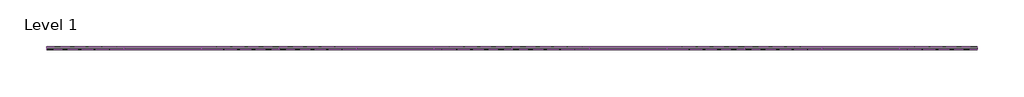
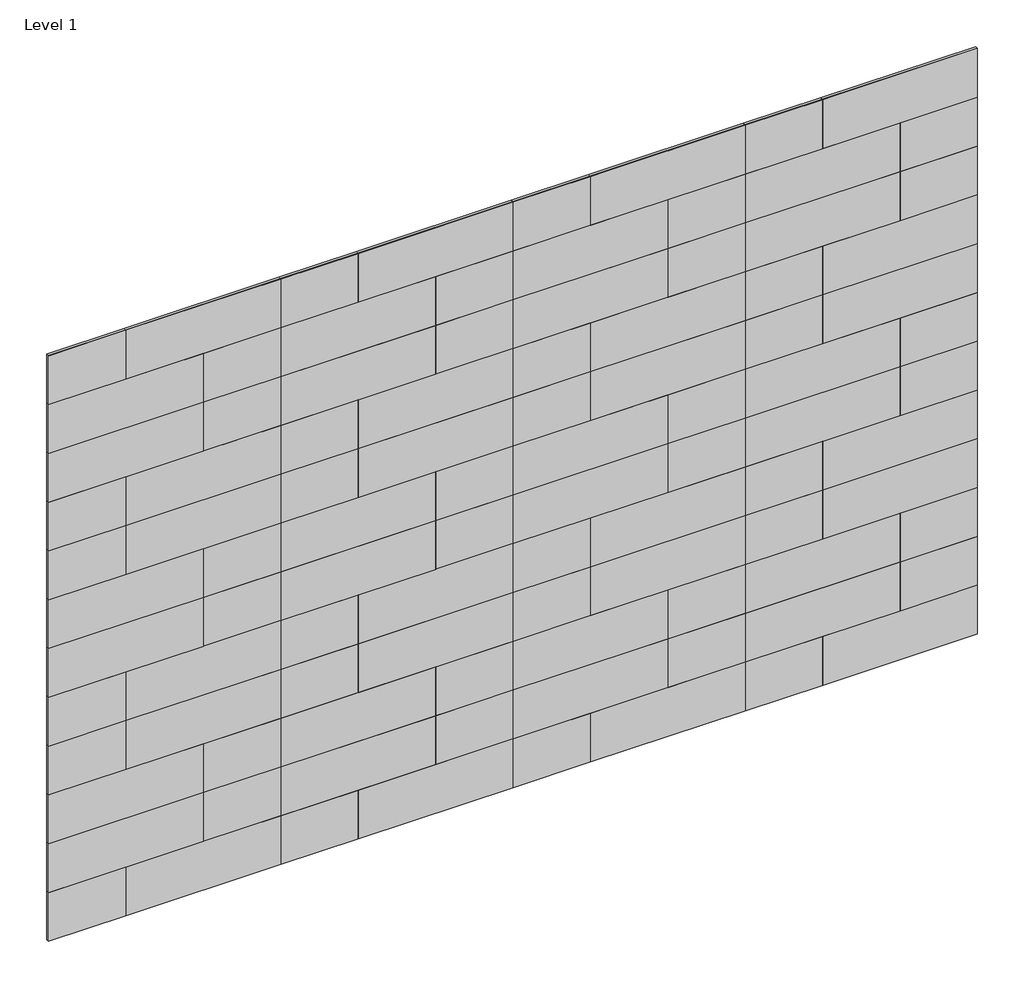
# One storey: 96 proxies.
"""IFC4 building model written with IfcOpenShell, lengths in millimetres."""

from ifc_helpers import new_model, si_unit, origin, place, context, project, spatial, transform, mapped, element, save
from components import specialty_equipment_1684c698, specialty_equipment_d1af641a

model = new_model("IFC4")

# Units and contexts
model_context = context("Model", 3, world=origin())
ifc_project = project(units=[si_unit("LENGTHUNIT", "METRE", prefix="MILLI")], contexts=[model_context])

# Site, building, storey
site = spatial("IfcSite", under=ifc_project)
building = spatial("IfcBuilding", under=site)
storey = spatial("IfcBuildingStorey", under=building, Name="Level 1", Elevation=0.0)

# Proxies
placement = place(None, origin())
specialty_equipment_shape = specialty_equipment_1684c698(model_context)
element("IfcBuildingElementProxy", 1, Name="FilzFelt_Rectangle B_Block : Rectangle B = 1’-0” x 8” (30.5 x 20.3 cm)", ObjectType="FilzFelt_Rectangle B_Block : Rectangle B = 1’-0” x 8” (30.5 x 20.3 cm)", at=placement, inside=storey, context=model_context, shape_type="MappedRepresentation", body=[
    mapped(specialty_equipment_shape, transform((37520.1097905, 3946.8352795, 2540.0), x_axis=(1.0, 0.0, 0.0), y_axis=(0.0, 0.0, 1.0), z_axis=(0.0, -1.0, 0.0))),
])
element("IfcBuildingElementProxy", 2, Name="FilzFelt_Rectangle B_Block : Rectangle B = 1’-0” x 8” (30.5 x 20.3 cm)", ObjectType="FilzFelt_Rectangle B_Block : Rectangle B = 1’-0” x 8” (30.5 x 20.3 cm)", at=placement, inside=storey, context=model_context, shape_type="MappedRepresentation", body=[
    mapped(specialty_equipment_shape, transform((38434.5097905, 3946.8352795, 2540.0), x_axis=(1.0, 0.0, 0.0), y_axis=(0.0, 0.0, 1.0), z_axis=(0.0, -1.0, 0.0))),
])
element("IfcBuildingElementProxy", 3, Name="FilzFelt_Rectangle B_Block : Rectangle B = 1’-0” x 8” (30.5 x 20.3 cm)", ObjectType="FilzFelt_Rectangle B_Block : Rectangle B = 1’-0” x 8” (30.5 x 20.3 cm)", at=placement, inside=storey, context=model_context, shape_type="MappedRepresentation", body=[
    mapped(specialty_equipment_shape, transform((39348.9097905, 3946.8352795, 2540.0), x_axis=(1.0, 0.0, 0.0), y_axis=(0.0, 0.0, 1.0), z_axis=(0.0, -1.0, 0.0))),
])
element("IfcBuildingElementProxy", 4, Name="FilzFelt_Rectangle B_Block : Rectangle B = 1’-0” x 8” (30.5 x 20.3 cm)", ObjectType="FilzFelt_Rectangle B_Block : Rectangle B = 1’-0” x 8” (30.5 x 20.3 cm)", at=placement, inside=storey, context=model_context, shape_type="MappedRepresentation", body=[
    mapped(specialty_equipment_shape, transform((40263.3097905, 3946.8352795, 2540.0), x_axis=(1.0, 0.0, 0.0), y_axis=(0.0, 0.0, 1.0), z_axis=(0.0, -1.0, 0.0))),
])
element("IfcBuildingElementProxy", 5, Name="FilzFelt_Rectangle B_Block : Rectangle B = 1’-0” x 8” (30.5 x 20.3 cm)", ObjectType="FilzFelt_Rectangle B_Block : Rectangle B = 1’-0” x 8” (30.5 x 20.3 cm)", at=placement, inside=storey, context=model_context, shape_type="MappedRepresentation", body=[
    mapped(specialty_equipment_shape, transform((38129.7097905, 3946.8352795, 2133.6), x_axis=(1.0, 0.0, 0.0), y_axis=(0.0, 0.0, 1.0), z_axis=(0.0, -1.0, 0.0))),
])
element("IfcBuildingElementProxy", 6, Name="FilzFelt_Rectangle B_Block : Rectangle B = 1’-0” x 8” (30.5 x 20.3 cm)", ObjectType="FilzFelt_Rectangle B_Block : Rectangle B = 1’-0” x 8” (30.5 x 20.3 cm)", at=placement, inside=storey, context=model_context, shape_type="MappedRepresentation", body=[
    mapped(specialty_equipment_shape, transform((39044.1097905, 3946.8352795, 2133.6), x_axis=(1.0, 0.0, 0.0), y_axis=(0.0, 0.0, 1.0), z_axis=(0.0, -1.0, 0.0))),
])
element("IfcBuildingElementProxy", 7, Name="FilzFelt_Rectangle B_Block : Rectangle B = 1’-0” x 8” (30.5 x 20.3 cm)", ObjectType="FilzFelt_Rectangle B_Block : Rectangle B = 1’-0” x 8” (30.5 x 20.3 cm)", at=placement, inside=storey, context=model_context, shape_type="MappedRepresentation", body=[
    mapped(specialty_equipment_shape, transform((39958.5097905, 3946.8352795, 2133.6), x_axis=(1.0, 0.0, 0.0), y_axis=(0.0, 0.0, 1.0), z_axis=(0.0, -1.0, 0.0))),
])
element("IfcBuildingElementProxy", 8, Name="FilzFelt_Rectangle B_Block : Rectangle B = 1’-0” x 8” (30.5 x 20.3 cm)", ObjectType="FilzFelt_Rectangle B_Block : Rectangle B = 1’-0” x 8” (30.5 x 20.3 cm)", at=placement, inside=storey, context=model_context, shape_type="MappedRepresentation", body=[
    mapped(specialty_equipment_shape, transform((40872.9097905, 3946.8352795, 2133.6), x_axis=(1.0, 0.0, 0.0), y_axis=(0.0, 0.0, 1.0), z_axis=(0.0, -1.0, 0.0))),
])
element("IfcBuildingElementProxy", 9, Name="FilzFelt_Rectangle B_Block : Rectangle B = 1’-0” x 8” (30.5 x 20.3 cm)", ObjectType="FilzFelt_Rectangle B_Block : Rectangle B = 1’-0” x 8” (30.5 x 20.3 cm)", at=placement, inside=storey, context=model_context, shape_type="MappedRepresentation", body=[
    mapped(specialty_equipment_shape, transform((37520.1097905, 3946.8352795, 1727.2), x_axis=(1.0, 0.0, 0.0), y_axis=(0.0, 0.0, 1.0), z_axis=(0.0, -1.0, 0.0))),
])
element("IfcBuildingElementProxy", 10, Name="FilzFelt_Rectangle B_Block : Rectangle B = 1’-0” x 8” (30.5 x 20.3 cm)", ObjectType="FilzFelt_Rectangle B_Block : Rectangle B = 1’-0” x 8” (30.5 x 20.3 cm)", at=placement, inside=storey, context=model_context, shape_type="MappedRepresentation", body=[
    mapped(specialty_equipment_shape, transform((38434.5097905, 3946.8352795, 1727.2), x_axis=(1.0, 0.0, 0.0), y_axis=(0.0, 0.0, 1.0), z_axis=(0.0, -1.0, 0.0))),
])
element("IfcBuildingElementProxy", 11, Name="FilzFelt_Rectangle B_Block : Rectangle B = 1’-0” x 8” (30.5 x 20.3 cm)", ObjectType="FilzFelt_Rectangle B_Block : Rectangle B = 1’-0” x 8” (30.5 x 20.3 cm)", at=placement, inside=storey, context=model_context, shape_type="MappedRepresentation", body=[
    mapped(specialty_equipment_shape, transform((39348.9097905, 3946.8352795, 1727.2), x_axis=(1.0, 0.0, 0.0), y_axis=(0.0, 0.0, 1.0), z_axis=(0.0, -1.0, 0.0))),
])
element("IfcBuildingElementProxy", 12, Name="FilzFelt_Rectangle B_Block : Rectangle B = 1’-0” x 8” (30.5 x 20.3 cm)", ObjectType="FilzFelt_Rectangle B_Block : Rectangle B = 1’-0” x 8” (30.5 x 20.3 cm)", at=placement, inside=storey, context=model_context, shape_type="MappedRepresentation", body=[
    mapped(specialty_equipment_shape, transform((40263.3097905, 3946.8352795, 1727.2), x_axis=(1.0, 0.0, 0.0), y_axis=(0.0, 0.0, 1.0), z_axis=(0.0, -1.0, 0.0))),
])
element("IfcBuildingElementProxy", 13, Name="FilzFelt_Rectangle B_Block : Rectangle B = 1’-0” x 8” (30.5 x 20.3 cm)", ObjectType="FilzFelt_Rectangle B_Block : Rectangle B = 1’-0” x 8” (30.5 x 20.3 cm)", at=placement, inside=storey, context=model_context, shape_type="MappedRepresentation", body=[
    mapped(specialty_equipment_shape, transform((38129.7097905, 3946.8352795, 1320.8), x_axis=(1.0, 0.0, 0.0), y_axis=(0.0, 0.0, 1.0), z_axis=(0.0, -1.0, 0.0))),
])
element("IfcBuildingElementProxy", 14, Name="FilzFelt_Rectangle B_Block : Rectangle B = 1’-0” x 8” (30.5 x 20.3 cm)", ObjectType="FilzFelt_Rectangle B_Block : Rectangle B = 1’-0” x 8” (30.5 x 20.3 cm)", at=placement, inside=storey, context=model_context, shape_type="MappedRepresentation", body=[
    mapped(specialty_equipment_shape, transform((39044.1097905, 3946.8352795, 1320.8), x_axis=(1.0, 0.0, 0.0), y_axis=(0.0, 0.0, 1.0), z_axis=(0.0, -1.0, 0.0))),
])
element("IfcBuildingElementProxy", 15, Name="FilzFelt_Rectangle B_Block : Rectangle B = 1’-0” x 8” (30.5 x 20.3 cm)", ObjectType="FilzFelt_Rectangle B_Block : Rectangle B = 1’-0” x 8” (30.5 x 20.3 cm)", at=placement, inside=storey, context=model_context, shape_type="MappedRepresentation", body=[
    mapped(specialty_equipment_shape, transform((39958.5097905, 3946.8352795, 1320.8), x_axis=(1.0, 0.0, 0.0), y_axis=(0.0, 0.0, 1.0), z_axis=(0.0, -1.0, 0.0))),
])
element("IfcBuildingElementProxy", 16, Name="FilzFelt_Rectangle B_Block : Rectangle B = 1’-0” x 8” (30.5 x 20.3 cm)", ObjectType="FilzFelt_Rectangle B_Block : Rectangle B = 1’-0” x 8” (30.5 x 20.3 cm)", at=placement, inside=storey, context=model_context, shape_type="MappedRepresentation", body=[
    mapped(specialty_equipment_shape, transform((40872.9097905, 3946.8352795, 1320.8), x_axis=(1.0, 0.0, 0.0), y_axis=(0.0, 0.0, 1.0), z_axis=(0.0, -1.0, 0.0))),
])
element("IfcBuildingElementProxy", 17, Name="FilzFelt_Rectangle B_Block : Rectangle B = 1’-0” x 8” (30.5 x 20.3 cm)", ObjectType="FilzFelt_Rectangle B_Block : Rectangle B = 1’-0” x 8” (30.5 x 20.3 cm)", at=placement, inside=storey, context=model_context, shape_type="MappedRepresentation", body=[
    mapped(specialty_equipment_shape, transform((37520.1097905, 3946.8352795, 914.4), x_axis=(1.0, 0.0, 0.0), y_axis=(0.0, 0.0, 1.0), z_axis=(0.0, -1.0, 0.0))),
])
element("IfcBuildingElementProxy", 18, Name="FilzFelt_Rectangle B_Block : Rectangle B = 1’-0” x 8” (30.5 x 20.3 cm)", ObjectType="FilzFelt_Rectangle B_Block : Rectangle B = 1’-0” x 8” (30.5 x 20.3 cm)", at=placement, inside=storey, context=model_context, shape_type="MappedRepresentation", body=[
    mapped(specialty_equipment_shape, transform((38434.5097905, 3946.8352795, 914.4), x_axis=(1.0, 0.0, 0.0), y_axis=(0.0, 0.0, 1.0), z_axis=(0.0, -1.0, 0.0))),
])
element("IfcBuildingElementProxy", 19, Name="FilzFelt_Rectangle B_Block : Rectangle B = 1’-0” x 8” (30.5 x 20.3 cm)", ObjectType="FilzFelt_Rectangle B_Block : Rectangle B = 1’-0” x 8” (30.5 x 20.3 cm)", at=placement, inside=storey, context=model_context, shape_type="MappedRepresentation", body=[
    mapped(specialty_equipment_shape, transform((39348.9097905, 3946.8352795, 914.4), x_axis=(1.0, 0.0, 0.0), y_axis=(0.0, 0.0, 1.0), z_axis=(0.0, -1.0, 0.0))),
])
element("IfcBuildingElementProxy", 20, Name="FilzFelt_Rectangle B_Block : Rectangle B = 1’-0” x 8” (30.5 x 20.3 cm)", ObjectType="FilzFelt_Rectangle B_Block : Rectangle B = 1’-0” x 8” (30.5 x 20.3 cm)", at=placement, inside=storey, context=model_context, shape_type="MappedRepresentation", body=[
    mapped(specialty_equipment_shape, transform((40263.3097905, 3946.8352795, 914.4), x_axis=(1.0, 0.0, 0.0), y_axis=(0.0, 0.0, 1.0), z_axis=(0.0, -1.0, 0.0))),
])
element("IfcBuildingElementProxy", 21, Name="FilzFelt_Rectangle B_Block : Rectangle B = 1’-0” x 8” (30.5 x 20.3 cm)", ObjectType="FilzFelt_Rectangle B_Block : Rectangle B = 1’-0” x 8” (30.5 x 20.3 cm)", at=placement, inside=storey, context=model_context, shape_type="MappedRepresentation", body=[
    mapped(specialty_equipment_shape, transform((38129.7097905, 3946.8352795, 508.0), x_axis=(1.0, 0.0, 0.0), y_axis=(0.0, 0.0, 1.0), z_axis=(0.0, -1.0, 0.0))),
])
element("IfcBuildingElementProxy", 22, Name="FilzFelt_Rectangle B_Block : Rectangle B = 1’-0” x 8” (30.5 x 20.3 cm)", ObjectType="FilzFelt_Rectangle B_Block : Rectangle B = 1’-0” x 8” (30.5 x 20.3 cm)", at=placement, inside=storey, context=model_context, shape_type="MappedRepresentation", body=[
    mapped(specialty_equipment_shape, transform((39044.1097905, 3946.8352795, 508.0), x_axis=(1.0, 0.0, 0.0), y_axis=(0.0, 0.0, 1.0), z_axis=(0.0, -1.0, 0.0))),
])
element("IfcBuildingElementProxy", 23, Name="FilzFelt_Rectangle B_Block : Rectangle B = 1’-0” x 8” (30.5 x 20.3 cm)", ObjectType="FilzFelt_Rectangle B_Block : Rectangle B = 1’-0” x 8” (30.5 x 20.3 cm)", at=placement, inside=storey, context=model_context, shape_type="MappedRepresentation", body=[
    mapped(specialty_equipment_shape, transform((39958.5097905, 3946.8352795, 508.0), x_axis=(1.0, 0.0, 0.0), y_axis=(0.0, 0.0, 1.0), z_axis=(0.0, -1.0, 0.0))),
])
element("IfcBuildingElementProxy", 24, Name="FilzFelt_Rectangle B_Block : Rectangle B = 1’-0” x 8” (30.5 x 20.3 cm)", ObjectType="FilzFelt_Rectangle B_Block : Rectangle B = 1’-0” x 8” (30.5 x 20.3 cm)", at=placement, inside=storey, context=model_context, shape_type="MappedRepresentation", body=[
    mapped(specialty_equipment_shape, transform((40872.9097905, 3946.8352795, 508.0), x_axis=(1.0, 0.0, 0.0), y_axis=(0.0, 0.0, 1.0), z_axis=(0.0, -1.0, 0.0))),
])
specialty_equipment_2_shape = specialty_equipment_d1af641a(model_context)
element("IfcBuildingElementProxy", 25, Name="FilzFelt_Rectangle A_Block : Rectangle A = 2’-0” x 8” (61 x 20.3 cm)", ObjectType="FilzFelt_Rectangle A_Block : Rectangle A = 2’-0” x 8” (61 x 20.3 cm)", at=placement, inside=storey, context=model_context, shape_type="MappedRepresentation", body=[
    mapped(specialty_equipment_2_shape, transform((37977.3097905, 3946.8352795, 2540.0), x_axis=(1.0, 0.0, 0.0), y_axis=(0.0, 0.0, 1.0), z_axis=(0.0, -1.0, 0.0))),
])
element("IfcBuildingElementProxy", 26, Name="FilzFelt_Rectangle A_Block : Rectangle A = 2’-0” x 8” (61 x 20.3 cm)", ObjectType="FilzFelt_Rectangle A_Block : Rectangle A = 2’-0” x 8” (61 x 20.3 cm)", at=placement, inside=storey, context=model_context, shape_type="MappedRepresentation", body=[
    mapped(specialty_equipment_2_shape, transform((38891.7097905, 3946.8352795, 2540.0), x_axis=(1.0, 0.0, 0.0), y_axis=(0.0, 0.0, 1.0), z_axis=(0.0, -1.0, 0.0))),
])
element("IfcBuildingElementProxy", 27, Name="FilzFelt_Rectangle A_Block : Rectangle A = 2’-0” x 8” (61 x 20.3 cm)", ObjectType="FilzFelt_Rectangle A_Block : Rectangle A = 2’-0” x 8” (61 x 20.3 cm)", at=placement, inside=storey, context=model_context, shape_type="MappedRepresentation", body=[
    mapped(specialty_equipment_2_shape, transform((39806.1097905, 3946.8352795, 2540.0), x_axis=(1.0, 0.0, 0.0), y_axis=(0.0, 0.0, 1.0), z_axis=(0.0, -1.0, 0.0))),
])
element("IfcBuildingElementProxy", 28, Name="FilzFelt_Rectangle A_Block : Rectangle A = 2’-0” x 8” (61 x 20.3 cm)", ObjectType="FilzFelt_Rectangle A_Block : Rectangle A = 2’-0” x 8” (61 x 20.3 cm)", at=placement, inside=storey, context=model_context, shape_type="MappedRepresentation", body=[
    mapped(specialty_equipment_2_shape, transform((40720.5097905, 3946.8352795, 2540.0), x_axis=(1.0, 0.0, 0.0), y_axis=(0.0, 0.0, 1.0), z_axis=(0.0, -1.0, 0.0))),
])
element("IfcBuildingElementProxy", 29, Name="FilzFelt_Rectangle A_Block : Rectangle A = 2’-0” x 8” (61 x 20.3 cm)", ObjectType="FilzFelt_Rectangle A_Block : Rectangle A = 2’-0” x 8” (61 x 20.3 cm)", at=placement, inside=storey, context=model_context, shape_type="MappedRepresentation", body=[
    mapped(specialty_equipment_2_shape, transform((37672.5097905, 3946.8352795, 2133.6), x_axis=(1.0, 0.0, 0.0), y_axis=(0.0, 0.0, 1.0), z_axis=(0.0, -1.0, 0.0))),
])
element("IfcBuildingElementProxy", 30, Name="FilzFelt_Rectangle A_Block : Rectangle A = 2’-0” x 8” (61 x 20.3 cm)", ObjectType="FilzFelt_Rectangle A_Block : Rectangle A = 2’-0” x 8” (61 x 20.3 cm)", at=placement, inside=storey, context=model_context, shape_type="MappedRepresentation", body=[
    mapped(specialty_equipment_2_shape, transform((38586.9097905, 3946.8352795, 2133.6), x_axis=(1.0, 0.0, 0.0), y_axis=(0.0, 0.0, 1.0), z_axis=(0.0, -1.0, 0.0))),
])
element("IfcBuildingElementProxy", 31, Name="FilzFelt_Rectangle A_Block : Rectangle A = 2’-0” x 8” (61 x 20.3 cm)", ObjectType="FilzFelt_Rectangle A_Block : Rectangle A = 2’-0” x 8” (61 x 20.3 cm)", at=placement, inside=storey, context=model_context, shape_type="MappedRepresentation", body=[
    mapped(specialty_equipment_2_shape, transform((39501.3097905, 3946.8352795, 2133.6), x_axis=(1.0, 0.0, 0.0), y_axis=(0.0, 0.0, 1.0), z_axis=(0.0, -1.0, 0.0))),
])
element("IfcBuildingElementProxy", 32, Name="FilzFelt_Rectangle A_Block : Rectangle A = 2’-0” x 8” (61 x 20.3 cm)", ObjectType="FilzFelt_Rectangle A_Block : Rectangle A = 2’-0” x 8” (61 x 20.3 cm)", at=placement, inside=storey, context=model_context, shape_type="MappedRepresentation", body=[
    mapped(specialty_equipment_2_shape, transform((40415.7097905, 3946.8352795, 2133.6), x_axis=(1.0, 0.0, 0.0), y_axis=(0.0, 0.0, 1.0), z_axis=(0.0, -1.0, 0.0))),
])
element("IfcBuildingElementProxy", 33, Name="FilzFelt_Rectangle A_Block : Rectangle A = 2’-0” x 8” (61 x 20.3 cm)", ObjectType="FilzFelt_Rectangle A_Block : Rectangle A = 2’-0” x 8” (61 x 20.3 cm)", at=placement, inside=storey, context=model_context, shape_type="MappedRepresentation", body=[
    mapped(specialty_equipment_2_shape, transform((37977.3097905, 3946.8352795, 1727.2), x_axis=(1.0, 0.0, 0.0), y_axis=(0.0, 0.0, 1.0), z_axis=(0.0, -1.0, 0.0))),
])
element("IfcBuildingElementProxy", 34, Name="FilzFelt_Rectangle A_Block : Rectangle A = 2’-0” x 8” (61 x 20.3 cm)", ObjectType="FilzFelt_Rectangle A_Block : Rectangle A = 2’-0” x 8” (61 x 20.3 cm)", at=placement, inside=storey, context=model_context, shape_type="MappedRepresentation", body=[
    mapped(specialty_equipment_2_shape, transform((38891.7097905, 3946.8352795, 1727.2), x_axis=(1.0, 0.0, 0.0), y_axis=(0.0, 0.0, 1.0), z_axis=(0.0, -1.0, 0.0))),
])
element("IfcBuildingElementProxy", 35, Name="FilzFelt_Rectangle A_Block : Rectangle A = 2’-0” x 8” (61 x 20.3 cm)", ObjectType="FilzFelt_Rectangle A_Block : Rectangle A = 2’-0” x 8” (61 x 20.3 cm)", at=placement, inside=storey, context=model_context, shape_type="MappedRepresentation", body=[
    mapped(specialty_equipment_2_shape, transform((39806.1097905, 3946.8352795, 1727.2), x_axis=(1.0, 0.0, 0.0), y_axis=(0.0, 0.0, 1.0), z_axis=(0.0, -1.0, 0.0))),
])
element("IfcBuildingElementProxy", 36, Name="FilzFelt_Rectangle A_Block : Rectangle A = 2’-0” x 8” (61 x 20.3 cm)", ObjectType="FilzFelt_Rectangle A_Block : Rectangle A = 2’-0” x 8” (61 x 20.3 cm)", at=placement, inside=storey, context=model_context, shape_type="MappedRepresentation", body=[
    mapped(specialty_equipment_2_shape, transform((40720.5097905, 3946.8352795, 1727.2), x_axis=(1.0, 0.0, 0.0), y_axis=(0.0, 0.0, 1.0), z_axis=(0.0, -1.0, 0.0))),
])
element("IfcBuildingElementProxy", 37, Name="FilzFelt_Rectangle A_Block : Rectangle A = 2’-0” x 8” (61 x 20.3 cm)", ObjectType="FilzFelt_Rectangle A_Block : Rectangle A = 2’-0” x 8” (61 x 20.3 cm)", at=placement, inside=storey, context=model_context, shape_type="MappedRepresentation", body=[
    mapped(specialty_equipment_2_shape, transform((37672.5097905, 3946.8352795, 1320.8), x_axis=(1.0, 0.0, 0.0), y_axis=(0.0, 0.0, 1.0), z_axis=(0.0, -1.0, 0.0))),
])
element("IfcBuildingElementProxy", 38, Name="FilzFelt_Rectangle A_Block : Rectangle A = 2’-0” x 8” (61 x 20.3 cm)", ObjectType="FilzFelt_Rectangle A_Block : Rectangle A = 2’-0” x 8” (61 x 20.3 cm)", at=placement, inside=storey, context=model_context, shape_type="MappedRepresentation", body=[
    mapped(specialty_equipment_2_shape, transform((38586.9097905, 3946.8352795, 1320.8), x_axis=(1.0, 0.0, 0.0), y_axis=(0.0, 0.0, 1.0), z_axis=(0.0, -1.0, 0.0))),
])
element("IfcBuildingElementProxy", 39, Name="FilzFelt_Rectangle A_Block : Rectangle A = 2’-0” x 8” (61 x 20.3 cm)", ObjectType="FilzFelt_Rectangle A_Block : Rectangle A = 2’-0” x 8” (61 x 20.3 cm)", at=placement, inside=storey, context=model_context, shape_type="MappedRepresentation", body=[
    mapped(specialty_equipment_2_shape, transform((39501.3097905, 3946.8352795, 1320.8), x_axis=(1.0, 0.0, 0.0), y_axis=(0.0, 0.0, 1.0), z_axis=(0.0, -1.0, 0.0))),
])
element("IfcBuildingElementProxy", 40, Name="FilzFelt_Rectangle A_Block : Rectangle A = 2’-0” x 8” (61 x 20.3 cm)", ObjectType="FilzFelt_Rectangle A_Block : Rectangle A = 2’-0” x 8” (61 x 20.3 cm)", at=placement, inside=storey, context=model_context, shape_type="MappedRepresentation", body=[
    mapped(specialty_equipment_2_shape, transform((40415.7097905, 3946.8352795, 1320.8), x_axis=(1.0, 0.0, 0.0), y_axis=(0.0, 0.0, 1.0), z_axis=(0.0, -1.0, 0.0))),
])
element("IfcBuildingElementProxy", 41, Name="FilzFelt_Rectangle A_Block : Rectangle A = 2’-0” x 8” (61 x 20.3 cm)", ObjectType="FilzFelt_Rectangle A_Block : Rectangle A = 2’-0” x 8” (61 x 20.3 cm)", at=placement, inside=storey, context=model_context, shape_type="MappedRepresentation", body=[
    mapped(specialty_equipment_2_shape, transform((37977.3097905, 3946.8352795, 914.4), x_axis=(1.0, 0.0, 0.0), y_axis=(0.0, 0.0, 1.0), z_axis=(0.0, -1.0, 0.0))),
])
element("IfcBuildingElementProxy", 42, Name="FilzFelt_Rectangle A_Block : Rectangle A = 2’-0” x 8” (61 x 20.3 cm)", ObjectType="FilzFelt_Rectangle A_Block : Rectangle A = 2’-0” x 8” (61 x 20.3 cm)", at=placement, inside=storey, context=model_context, shape_type="MappedRepresentation", body=[
    mapped(specialty_equipment_2_shape, transform((38891.7097905, 3946.8352795, 914.4), x_axis=(1.0, 0.0, 0.0), y_axis=(0.0, 0.0, 1.0), z_axis=(0.0, -1.0, 0.0))),
])
element("IfcBuildingElementProxy", 43, Name="FilzFelt_Rectangle A_Block : Rectangle A = 2’-0” x 8” (61 x 20.3 cm)", ObjectType="FilzFelt_Rectangle A_Block : Rectangle A = 2’-0” x 8” (61 x 20.3 cm)", at=placement, inside=storey, context=model_context, shape_type="MappedRepresentation", body=[
    mapped(specialty_equipment_2_shape, transform((39806.1097905, 3946.8352795, 914.4), x_axis=(1.0, 0.0, 0.0), y_axis=(0.0, 0.0, 1.0), z_axis=(0.0, -1.0, 0.0))),
])
element("IfcBuildingElementProxy", 44, Name="FilzFelt_Rectangle A_Block : Rectangle A = 2’-0” x 8” (61 x 20.3 cm)", ObjectType="FilzFelt_Rectangle A_Block : Rectangle A = 2’-0” x 8” (61 x 20.3 cm)", at=placement, inside=storey, context=model_context, shape_type="MappedRepresentation", body=[
    mapped(specialty_equipment_2_shape, transform((40720.5097905, 3946.8352795, 914.4), x_axis=(1.0, 0.0, 0.0), y_axis=(0.0, 0.0, 1.0), z_axis=(0.0, -1.0, 0.0))),
])
element("IfcBuildingElementProxy", 45, Name="FilzFelt_Rectangle A_Block : Rectangle A = 2’-0” x 8” (61 x 20.3 cm)", ObjectType="FilzFelt_Rectangle A_Block : Rectangle A = 2’-0” x 8” (61 x 20.3 cm)", at=placement, inside=storey, context=model_context, shape_type="MappedRepresentation", body=[
    mapped(specialty_equipment_2_shape, transform((37672.5097905, 3946.8352795, 508.0), x_axis=(1.0, 0.0, 0.0), y_axis=(0.0, 0.0, 1.0), z_axis=(0.0, -1.0, 0.0))),
])
element("IfcBuildingElementProxy", 46, Name="FilzFelt_Rectangle A_Block : Rectangle A = 2’-0” x 8” (61 x 20.3 cm)", ObjectType="FilzFelt_Rectangle A_Block : Rectangle A = 2’-0” x 8” (61 x 20.3 cm)", at=placement, inside=storey, context=model_context, shape_type="MappedRepresentation", body=[
    mapped(specialty_equipment_2_shape, transform((38586.9097905, 3946.8352795, 508.0), x_axis=(1.0, 0.0, 0.0), y_axis=(0.0, 0.0, 1.0), z_axis=(0.0, -1.0, 0.0))),
])
element("IfcBuildingElementProxy", 47, Name="FilzFelt_Rectangle A_Block : Rectangle A = 2’-0” x 8” (61 x 20.3 cm)", ObjectType="FilzFelt_Rectangle A_Block : Rectangle A = 2’-0” x 8” (61 x 20.3 cm)", at=placement, inside=storey, context=model_context, shape_type="MappedRepresentation", body=[
    mapped(specialty_equipment_2_shape, transform((39501.3097905, 3946.8352795, 508.0), x_axis=(1.0, 0.0, 0.0), y_axis=(0.0, 0.0, 1.0), z_axis=(0.0, -1.0, 0.0))),
])
element("IfcBuildingElementProxy", 48, Name="FilzFelt_Rectangle A_Block : Rectangle A = 2’-0” x 8” (61 x 20.3 cm)", ObjectType="FilzFelt_Rectangle A_Block : Rectangle A = 2’-0” x 8” (61 x 20.3 cm)", at=placement, inside=storey, context=model_context, shape_type="MappedRepresentation", body=[
    mapped(specialty_equipment_2_shape, transform((40415.7097905, 3946.8352795, 508.0), x_axis=(1.0, 0.0, 0.0), y_axis=(0.0, 0.0, 1.0), z_axis=(0.0, -1.0, 0.0))),
])
element("IfcBuildingElementProxy", 49, Name="FilzFelt_Rectangle B_Block : Rectangle B = 1’-0” x 8” (30.5 x 20.3 cm)", ObjectType="FilzFelt_Rectangle B_Block : Rectangle B = 1’-0” x 8” (30.5 x 20.3 cm)", at=placement, inside=storey, context=model_context, shape_type="MappedRepresentation", body=[
    mapped(specialty_equipment_shape, transform((38129.7097905, 3946.8352795, 2336.8), x_axis=(1.0, 0.0, 0.0), y_axis=(0.0, 0.0, 1.0), z_axis=(0.0, -1.0, 0.0))),
])
element("IfcBuildingElementProxy", 50, Name="FilzFelt_Rectangle B_Block : Rectangle B = 1’-0” x 8” (30.5 x 20.3 cm)", ObjectType="FilzFelt_Rectangle B_Block : Rectangle B = 1’-0” x 8” (30.5 x 20.3 cm)", at=placement, inside=storey, context=model_context, shape_type="MappedRepresentation", body=[
    mapped(specialty_equipment_shape, transform((39044.1097905, 3946.8352795, 2336.8), x_axis=(1.0, 0.0, 0.0), y_axis=(0.0, 0.0, 1.0), z_axis=(0.0, -1.0, 0.0))),
])
element("IfcBuildingElementProxy", 51, Name="FilzFelt_Rectangle B_Block : Rectangle B = 1’-0” x 8” (30.5 x 20.3 cm)", ObjectType="FilzFelt_Rectangle B_Block : Rectangle B = 1’-0” x 8” (30.5 x 20.3 cm)", at=placement, inside=storey, context=model_context, shape_type="MappedRepresentation", body=[
    mapped(specialty_equipment_shape, transform((39958.5097905, 3946.8352795, 2336.8), x_axis=(1.0, 0.0, 0.0), y_axis=(0.0, 0.0, 1.0), z_axis=(0.0, -1.0, 0.0))),
])
element("IfcBuildingElementProxy", 52, Name="FilzFelt_Rectangle B_Block : Rectangle B = 1’-0” x 8” (30.5 x 20.3 cm)", ObjectType="FilzFelt_Rectangle B_Block : Rectangle B = 1’-0” x 8” (30.5 x 20.3 cm)", at=placement, inside=storey, context=model_context, shape_type="MappedRepresentation", body=[
    mapped(specialty_equipment_shape, transform((40872.9097905, 3946.8352795, 2336.8), x_axis=(1.0, 0.0, 0.0), y_axis=(0.0, 0.0, 1.0), z_axis=(0.0, -1.0, 0.0))),
])
element("IfcBuildingElementProxy", 53, Name="FilzFelt_Rectangle B_Block : Rectangle B = 1’-0” x 8” (30.5 x 20.3 cm)", ObjectType="FilzFelt_Rectangle B_Block : Rectangle B = 1’-0” x 8” (30.5 x 20.3 cm)", at=placement, inside=storey, context=model_context, shape_type="MappedRepresentation", body=[
    mapped(specialty_equipment_shape, transform((37520.1097905, 3946.8352795, 1930.4), x_axis=(1.0, 0.0, 0.0), y_axis=(0.0, 0.0, 1.0), z_axis=(0.0, -1.0, 0.0))),
])
element("IfcBuildingElementProxy", 54, Name="FilzFelt_Rectangle B_Block : Rectangle B = 1’-0” x 8” (30.5 x 20.3 cm)", ObjectType="FilzFelt_Rectangle B_Block : Rectangle B = 1’-0” x 8” (30.5 x 20.3 cm)", at=placement, inside=storey, context=model_context, shape_type="MappedRepresentation", body=[
    mapped(specialty_equipment_shape, transform((38434.5097905, 3946.8352795, 1930.4), x_axis=(1.0, 0.0, 0.0), y_axis=(0.0, 0.0, 1.0), z_axis=(0.0, -1.0, 0.0))),
])
element("IfcBuildingElementProxy", 55, Name="FilzFelt_Rectangle B_Block : Rectangle B = 1’-0” x 8” (30.5 x 20.3 cm)", ObjectType="FilzFelt_Rectangle B_Block : Rectangle B = 1’-0” x 8” (30.5 x 20.3 cm)", at=placement, inside=storey, context=model_context, shape_type="MappedRepresentation", body=[
    mapped(specialty_equipment_shape, transform((39348.9097905, 3946.8352795, 1930.4), x_axis=(1.0, 0.0, 0.0), y_axis=(0.0, 0.0, 1.0), z_axis=(0.0, -1.0, 0.0))),
])
element("IfcBuildingElementProxy", 56, Name="FilzFelt_Rectangle B_Block : Rectangle B = 1’-0” x 8” (30.5 x 20.3 cm)", ObjectType="FilzFelt_Rectangle B_Block : Rectangle B = 1’-0” x 8” (30.5 x 20.3 cm)", at=placement, inside=storey, context=model_context, shape_type="MappedRepresentation", body=[
    mapped(specialty_equipment_shape, transform((40263.3097905, 3946.8352795, 1930.4), x_axis=(1.0, 0.0, 0.0), y_axis=(0.0, 0.0, 1.0), z_axis=(0.0, -1.0, 0.0))),
])
element("IfcBuildingElementProxy", 57, Name="FilzFelt_Rectangle B_Block : Rectangle B = 1’-0” x 8” (30.5 x 20.3 cm)", ObjectType="FilzFelt_Rectangle B_Block : Rectangle B = 1’-0” x 8” (30.5 x 20.3 cm)", at=placement, inside=storey, context=model_context, shape_type="MappedRepresentation", body=[
    mapped(specialty_equipment_shape, transform((38129.7097905, 3946.8352795, 1524.0), x_axis=(1.0, 0.0, 0.0), y_axis=(0.0, 0.0, 1.0), z_axis=(0.0, -1.0, 0.0))),
])
element("IfcBuildingElementProxy", 58, Name="FilzFelt_Rectangle B_Block : Rectangle B = 1’-0” x 8” (30.5 x 20.3 cm)", ObjectType="FilzFelt_Rectangle B_Block : Rectangle B = 1’-0” x 8” (30.5 x 20.3 cm)", at=placement, inside=storey, context=model_context, shape_type="MappedRepresentation", body=[
    mapped(specialty_equipment_shape, transform((39044.1097905, 3946.8352795, 1524.0), x_axis=(1.0, 0.0, 0.0), y_axis=(0.0, 0.0, 1.0), z_axis=(0.0, -1.0, 0.0))),
])
element("IfcBuildingElementProxy", 59, Name="FilzFelt_Rectangle B_Block : Rectangle B = 1’-0” x 8” (30.5 x 20.3 cm)", ObjectType="FilzFelt_Rectangle B_Block : Rectangle B = 1’-0” x 8” (30.5 x 20.3 cm)", at=placement, inside=storey, context=model_context, shape_type="MappedRepresentation", body=[
    mapped(specialty_equipment_shape, transform((39958.5097905, 3946.8352795, 1524.0), x_axis=(1.0, 0.0, 0.0), y_axis=(0.0, 0.0, 1.0), z_axis=(0.0, -1.0, 0.0))),
])
element("IfcBuildingElementProxy", 60, Name="FilzFelt_Rectangle B_Block : Rectangle B = 1’-0” x 8” (30.5 x 20.3 cm)", ObjectType="FilzFelt_Rectangle B_Block : Rectangle B = 1’-0” x 8” (30.5 x 20.3 cm)", at=placement, inside=storey, context=model_context, shape_type="MappedRepresentation", body=[
    mapped(specialty_equipment_shape, transform((40872.9097905, 3946.8352795, 1524.0), x_axis=(1.0, 0.0, 0.0), y_axis=(0.0, 0.0, 1.0), z_axis=(0.0, -1.0, 0.0))),
])
element("IfcBuildingElementProxy", 61, Name="FilzFelt_Rectangle B_Block : Rectangle B = 1’-0” x 8” (30.5 x 20.3 cm)", ObjectType="FilzFelt_Rectangle B_Block : Rectangle B = 1’-0” x 8” (30.5 x 20.3 cm)", at=placement, inside=storey, context=model_context, shape_type="MappedRepresentation", body=[
    mapped(specialty_equipment_shape, transform((37520.1097905, 3946.8352795, 1117.6), x_axis=(1.0, 0.0, 0.0), y_axis=(0.0, 0.0, 1.0), z_axis=(0.0, -1.0, 0.0))),
])
element("IfcBuildingElementProxy", 62, Name="FilzFelt_Rectangle B_Block : Rectangle B = 1’-0” x 8” (30.5 x 20.3 cm)", ObjectType="FilzFelt_Rectangle B_Block : Rectangle B = 1’-0” x 8” (30.5 x 20.3 cm)", at=placement, inside=storey, context=model_context, shape_type="MappedRepresentation", body=[
    mapped(specialty_equipment_shape, transform((38434.5097905, 3946.8352795, 1117.6), x_axis=(1.0, 0.0, 0.0), y_axis=(0.0, 0.0, 1.0), z_axis=(0.0, -1.0, 0.0))),
])
element("IfcBuildingElementProxy", 63, Name="FilzFelt_Rectangle B_Block : Rectangle B = 1’-0” x 8” (30.5 x 20.3 cm)", ObjectType="FilzFelt_Rectangle B_Block : Rectangle B = 1’-0” x 8” (30.5 x 20.3 cm)", at=placement, inside=storey, context=model_context, shape_type="MappedRepresentation", body=[
    mapped(specialty_equipment_shape, transform((39348.9097905, 3946.8352795, 1117.6), x_axis=(1.0, 0.0, 0.0), y_axis=(0.0, 0.0, 1.0), z_axis=(0.0, -1.0, 0.0))),
])
element("IfcBuildingElementProxy", 64, Name="FilzFelt_Rectangle B_Block : Rectangle B = 1’-0” x 8” (30.5 x 20.3 cm)", ObjectType="FilzFelt_Rectangle B_Block : Rectangle B = 1’-0” x 8” (30.5 x 20.3 cm)", at=placement, inside=storey, context=model_context, shape_type="MappedRepresentation", body=[
    mapped(specialty_equipment_shape, transform((40263.3097905, 3946.8352795, 1117.6), x_axis=(1.0, 0.0, 0.0), y_axis=(0.0, 0.0, 1.0), z_axis=(0.0, -1.0, 0.0))),
])
element("IfcBuildingElementProxy", 65, Name="FilzFelt_Rectangle B_Block : Rectangle B = 1’-0” x 8” (30.5 x 20.3 cm)", ObjectType="FilzFelt_Rectangle B_Block : Rectangle B = 1’-0” x 8” (30.5 x 20.3 cm)", at=placement, inside=storey, context=model_context, shape_type="MappedRepresentation", body=[
    mapped(specialty_equipment_shape, transform((38129.7097905, 3946.8352795, 711.2), x_axis=(1.0, 0.0, 0.0), y_axis=(0.0, 0.0, 1.0), z_axis=(0.0, -1.0, 0.0))),
])
element("IfcBuildingElementProxy", 66, Name="FilzFelt_Rectangle B_Block : Rectangle B = 1’-0” x 8” (30.5 x 20.3 cm)", ObjectType="FilzFelt_Rectangle B_Block : Rectangle B = 1’-0” x 8” (30.5 x 20.3 cm)", at=placement, inside=storey, context=model_context, shape_type="MappedRepresentation", body=[
    mapped(specialty_equipment_shape, transform((39044.1097905, 3946.8352795, 711.2), x_axis=(1.0, 0.0, 0.0), y_axis=(0.0, 0.0, 1.0), z_axis=(0.0, -1.0, 0.0))),
])
element("IfcBuildingElementProxy", 67, Name="FilzFelt_Rectangle B_Block : Rectangle B = 1’-0” x 8” (30.5 x 20.3 cm)", ObjectType="FilzFelt_Rectangle B_Block : Rectangle B = 1’-0” x 8” (30.5 x 20.3 cm)", at=placement, inside=storey, context=model_context, shape_type="MappedRepresentation", body=[
    mapped(specialty_equipment_shape, transform((39958.5097905, 3946.8352795, 711.2), x_axis=(1.0, 0.0, 0.0), y_axis=(0.0, 0.0, 1.0), z_axis=(0.0, -1.0, 0.0))),
])
element("IfcBuildingElementProxy", 68, Name="FilzFelt_Rectangle B_Block : Rectangle B = 1’-0” x 8” (30.5 x 20.3 cm)", ObjectType="FilzFelt_Rectangle B_Block : Rectangle B = 1’-0” x 8” (30.5 x 20.3 cm)", at=placement, inside=storey, context=model_context, shape_type="MappedRepresentation", body=[
    mapped(specialty_equipment_shape, transform((40872.9097905, 3946.8352795, 711.2), x_axis=(1.0, 0.0, 0.0), y_axis=(0.0, 0.0, 1.0), z_axis=(0.0, -1.0, 0.0))),
])
element("IfcBuildingElementProxy", 69, Name="FilzFelt_Rectangle B_Block : Rectangle B = 1’-0” x 8” (30.5 x 20.3 cm)", ObjectType="FilzFelt_Rectangle B_Block : Rectangle B = 1’-0” x 8” (30.5 x 20.3 cm)", at=placement, inside=storey, context=model_context, shape_type="MappedRepresentation", body=[
    mapped(specialty_equipment_shape, transform((37520.1097905, 3946.8352795, 304.8), x_axis=(1.0, 0.0, 0.0), y_axis=(0.0, 0.0, 1.0), z_axis=(0.0, -1.0, 0.0))),
])
element("IfcBuildingElementProxy", 70, Name="FilzFelt_Rectangle B_Block : Rectangle B = 1’-0” x 8” (30.5 x 20.3 cm)", ObjectType="FilzFelt_Rectangle B_Block : Rectangle B = 1’-0” x 8” (30.5 x 20.3 cm)", at=placement, inside=storey, context=model_context, shape_type="MappedRepresentation", body=[
    mapped(specialty_equipment_shape, transform((38434.5097905, 3946.8352795, 304.8), x_axis=(1.0, 0.0, 0.0), y_axis=(0.0, 0.0, 1.0), z_axis=(0.0, -1.0, 0.0))),
])
element("IfcBuildingElementProxy", 71, Name="FilzFelt_Rectangle B_Block : Rectangle B = 1’-0” x 8” (30.5 x 20.3 cm)", ObjectType="FilzFelt_Rectangle B_Block : Rectangle B = 1’-0” x 8” (30.5 x 20.3 cm)", at=placement, inside=storey, context=model_context, shape_type="MappedRepresentation", body=[
    mapped(specialty_equipment_shape, transform((39348.9097905, 3946.8352795, 304.8), x_axis=(1.0, 0.0, 0.0), y_axis=(0.0, 0.0, 1.0), z_axis=(0.0, -1.0, 0.0))),
])
element("IfcBuildingElementProxy", 72, Name="FilzFelt_Rectangle B_Block : Rectangle B = 1’-0” x 8” (30.5 x 20.3 cm)", ObjectType="FilzFelt_Rectangle B_Block : Rectangle B = 1’-0” x 8” (30.5 x 20.3 cm)", at=placement, inside=storey, context=model_context, shape_type="MappedRepresentation", body=[
    mapped(specialty_equipment_shape, transform((40263.3097905, 3946.8352795, 304.8), x_axis=(1.0, 0.0, 0.0), y_axis=(0.0, 0.0, 1.0), z_axis=(0.0, -1.0, 0.0))),
])
element("IfcBuildingElementProxy", 73, Name="FilzFelt_Rectangle A_Block : Rectangle A = 2’-0” x 8” (61 x 20.3 cm)", ObjectType="FilzFelt_Rectangle A_Block : Rectangle A = 2’-0” x 8” (61 x 20.3 cm)", at=placement, inside=storey, context=model_context, shape_type="MappedRepresentation", body=[
    mapped(specialty_equipment_2_shape, transform((37672.5097905, 3946.8352795, 2336.8), x_axis=(1.0, 0.0, 0.0), y_axis=(0.0, 0.0, 1.0), z_axis=(0.0, -1.0, 0.0))),
])
element("IfcBuildingElementProxy", 74, Name="FilzFelt_Rectangle A_Block : Rectangle A = 2’-0” x 8” (61 x 20.3 cm)", ObjectType="FilzFelt_Rectangle A_Block : Rectangle A = 2’-0” x 8” (61 x 20.3 cm)", at=placement, inside=storey, context=model_context, shape_type="MappedRepresentation", body=[
    mapped(specialty_equipment_2_shape, transform((38586.9097905, 3946.8352795, 2336.8), x_axis=(1.0, 0.0, 0.0), y_axis=(0.0, 0.0, 1.0), z_axis=(0.0, -1.0, 0.0))),
])
element("IfcBuildingElementProxy", 75, Name="FilzFelt_Rectangle A_Block : Rectangle A = 2’-0” x 8” (61 x 20.3 cm)", ObjectType="FilzFelt_Rectangle A_Block : Rectangle A = 2’-0” x 8” (61 x 20.3 cm)", at=placement, inside=storey, context=model_context, shape_type="MappedRepresentation", body=[
    mapped(specialty_equipment_2_shape, transform((39501.3097905, 3946.8352795, 2336.8), x_axis=(1.0, 0.0, 0.0), y_axis=(0.0, 0.0, 1.0), z_axis=(0.0, -1.0, 0.0))),
])
element("IfcBuildingElementProxy", 76, Name="FilzFelt_Rectangle A_Block : Rectangle A = 2’-0” x 8” (61 x 20.3 cm)", ObjectType="FilzFelt_Rectangle A_Block : Rectangle A = 2’-0” x 8” (61 x 20.3 cm)", at=placement, inside=storey, context=model_context, shape_type="MappedRepresentation", body=[
    mapped(specialty_equipment_2_shape, transform((40415.7097905, 3946.8352795, 2336.8), x_axis=(1.0, 0.0, 0.0), y_axis=(0.0, 0.0, 1.0), z_axis=(0.0, -1.0, 0.0))),
])
element("IfcBuildingElementProxy", 77, Name="FilzFelt_Rectangle A_Block : Rectangle A = 2’-0” x 8” (61 x 20.3 cm)", ObjectType="FilzFelt_Rectangle A_Block : Rectangle A = 2’-0” x 8” (61 x 20.3 cm)", at=placement, inside=storey, context=model_context, shape_type="MappedRepresentation", body=[
    mapped(specialty_equipment_2_shape, transform((37977.3097905, 3946.8352795, 1930.4), x_axis=(1.0, 0.0, 0.0), y_axis=(0.0, 0.0, 1.0), z_axis=(0.0, -1.0, 0.0))),
])
element("IfcBuildingElementProxy", 78, Name="FilzFelt_Rectangle A_Block : Rectangle A = 2’-0” x 8” (61 x 20.3 cm)", ObjectType="FilzFelt_Rectangle A_Block : Rectangle A = 2’-0” x 8” (61 x 20.3 cm)", at=placement, inside=storey, context=model_context, shape_type="MappedRepresentation", body=[
    mapped(specialty_equipment_2_shape, transform((38891.7097905, 3946.8352795, 1930.4), x_axis=(1.0, 0.0, 0.0), y_axis=(0.0, 0.0, 1.0), z_axis=(0.0, -1.0, 0.0))),
])
element("IfcBuildingElementProxy", 79, Name="FilzFelt_Rectangle A_Block : Rectangle A = 2’-0” x 8” (61 x 20.3 cm)", ObjectType="FilzFelt_Rectangle A_Block : Rectangle A = 2’-0” x 8” (61 x 20.3 cm)", at=placement, inside=storey, context=model_context, shape_type="MappedRepresentation", body=[
    mapped(specialty_equipment_2_shape, transform((39806.1097905, 3946.8352795, 1930.4), x_axis=(1.0, 0.0, 0.0), y_axis=(0.0, 0.0, 1.0), z_axis=(0.0, -1.0, 0.0))),
])
element("IfcBuildingElementProxy", 80, Name="FilzFelt_Rectangle A_Block : Rectangle A = 2’-0” x 8” (61 x 20.3 cm)", ObjectType="FilzFelt_Rectangle A_Block : Rectangle A = 2’-0” x 8” (61 x 20.3 cm)", at=placement, inside=storey, context=model_context, shape_type="MappedRepresentation", body=[
    mapped(specialty_equipment_2_shape, transform((40720.5097905, 3946.8352795, 1930.4), x_axis=(1.0, 0.0, 0.0), y_axis=(0.0, 0.0, 1.0), z_axis=(0.0, -1.0, 0.0))),
])
element("IfcBuildingElementProxy", 81, Name="FilzFelt_Rectangle A_Block : Rectangle A = 2’-0” x 8” (61 x 20.3 cm)", ObjectType="FilzFelt_Rectangle A_Block : Rectangle A = 2’-0” x 8” (61 x 20.3 cm)", at=placement, inside=storey, context=model_context, shape_type="MappedRepresentation", body=[
    mapped(specialty_equipment_2_shape, transform((37672.5097905, 3946.8352795, 1524.0), x_axis=(1.0, 0.0, 0.0), y_axis=(0.0, 0.0, 1.0), z_axis=(0.0, -1.0, 0.0))),
])
element("IfcBuildingElementProxy", 82, Name="FilzFelt_Rectangle A_Block : Rectangle A = 2’-0” x 8” (61 x 20.3 cm)", ObjectType="FilzFelt_Rectangle A_Block : Rectangle A = 2’-0” x 8” (61 x 20.3 cm)", at=placement, inside=storey, context=model_context, shape_type="MappedRepresentation", body=[
    mapped(specialty_equipment_2_shape, transform((38586.9097905, 3946.8352795, 1524.0), x_axis=(1.0, 0.0, 0.0), y_axis=(0.0, 0.0, 1.0), z_axis=(0.0, -1.0, 0.0))),
])
element("IfcBuildingElementProxy", 83, Name="FilzFelt_Rectangle A_Block : Rectangle A = 2’-0” x 8” (61 x 20.3 cm)", ObjectType="FilzFelt_Rectangle A_Block : Rectangle A = 2’-0” x 8” (61 x 20.3 cm)", at=placement, inside=storey, context=model_context, shape_type="MappedRepresentation", body=[
    mapped(specialty_equipment_2_shape, transform((39501.3097905, 3946.8352795, 1524.0), x_axis=(1.0, 0.0, 0.0), y_axis=(0.0, 0.0, 1.0), z_axis=(0.0, -1.0, 0.0))),
])
element("IfcBuildingElementProxy", 84, Name="FilzFelt_Rectangle A_Block : Rectangle A = 2’-0” x 8” (61 x 20.3 cm)", ObjectType="FilzFelt_Rectangle A_Block : Rectangle A = 2’-0” x 8” (61 x 20.3 cm)", at=placement, inside=storey, context=model_context, shape_type="MappedRepresentation", body=[
    mapped(specialty_equipment_2_shape, transform((40415.7097905, 3946.8352795, 1524.0), x_axis=(1.0, 0.0, 0.0), y_axis=(0.0, 0.0, 1.0), z_axis=(0.0, -1.0, 0.0))),
])
element("IfcBuildingElementProxy", 85, Name="FilzFelt_Rectangle A_Block : Rectangle A = 2’-0” x 8” (61 x 20.3 cm)", ObjectType="FilzFelt_Rectangle A_Block : Rectangle A = 2’-0” x 8” (61 x 20.3 cm)", at=placement, inside=storey, context=model_context, shape_type="MappedRepresentation", body=[
    mapped(specialty_equipment_2_shape, transform((37977.3097905, 3946.8352795, 1117.6), x_axis=(1.0, 0.0, 0.0), y_axis=(0.0, 0.0, 1.0), z_axis=(0.0, -1.0, 0.0))),
])
element("IfcBuildingElementProxy", 86, Name="FilzFelt_Rectangle A_Block : Rectangle A = 2’-0” x 8” (61 x 20.3 cm)", ObjectType="FilzFelt_Rectangle A_Block : Rectangle A = 2’-0” x 8” (61 x 20.3 cm)", at=placement, inside=storey, context=model_context, shape_type="MappedRepresentation", body=[
    mapped(specialty_equipment_2_shape, transform((38891.7097905, 3946.8352795, 1117.6), x_axis=(1.0, 0.0, 0.0), y_axis=(0.0, 0.0, 1.0), z_axis=(0.0, -1.0, 0.0))),
])
element("IfcBuildingElementProxy", 87, Name="FilzFelt_Rectangle A_Block : Rectangle A = 2’-0” x 8” (61 x 20.3 cm)", ObjectType="FilzFelt_Rectangle A_Block : Rectangle A = 2’-0” x 8” (61 x 20.3 cm)", at=placement, inside=storey, context=model_context, shape_type="MappedRepresentation", body=[
    mapped(specialty_equipment_2_shape, transform((39806.1097905, 3946.8352795, 1117.6), x_axis=(1.0, 0.0, 0.0), y_axis=(0.0, 0.0, 1.0), z_axis=(0.0, -1.0, 0.0))),
])
element("IfcBuildingElementProxy", 88, Name="FilzFelt_Rectangle A_Block : Rectangle A = 2’-0” x 8” (61 x 20.3 cm)", ObjectType="FilzFelt_Rectangle A_Block : Rectangle A = 2’-0” x 8” (61 x 20.3 cm)", at=placement, inside=storey, context=model_context, shape_type="MappedRepresentation", body=[
    mapped(specialty_equipment_2_shape, transform((40720.5097905, 3946.8352795, 1117.6), x_axis=(1.0, 0.0, 0.0), y_axis=(0.0, 0.0, 1.0), z_axis=(0.0, -1.0, 0.0))),
])
element("IfcBuildingElementProxy", 89, Name="FilzFelt_Rectangle A_Block : Rectangle A = 2’-0” x 8” (61 x 20.3 cm)", ObjectType="FilzFelt_Rectangle A_Block : Rectangle A = 2’-0” x 8” (61 x 20.3 cm)", at=placement, inside=storey, context=model_context, shape_type="MappedRepresentation", body=[
    mapped(specialty_equipment_2_shape, transform((37672.5097905, 3946.8352795, 711.2), x_axis=(1.0, 0.0, 0.0), y_axis=(0.0, 0.0, 1.0), z_axis=(0.0, -1.0, 0.0))),
])
element("IfcBuildingElementProxy", 90, Name="FilzFelt_Rectangle A_Block : Rectangle A = 2’-0” x 8” (61 x 20.3 cm)", ObjectType="FilzFelt_Rectangle A_Block : Rectangle A = 2’-0” x 8” (61 x 20.3 cm)", at=placement, inside=storey, context=model_context, shape_type="MappedRepresentation", body=[
    mapped(specialty_equipment_2_shape, transform((38586.9097905, 3946.8352795, 711.2), x_axis=(1.0, 0.0, 0.0), y_axis=(0.0, 0.0, 1.0), z_axis=(0.0, -1.0, 0.0))),
])
element("IfcBuildingElementProxy", 91, Name="FilzFelt_Rectangle A_Block : Rectangle A = 2’-0” x 8” (61 x 20.3 cm)", ObjectType="FilzFelt_Rectangle A_Block : Rectangle A = 2’-0” x 8” (61 x 20.3 cm)", at=placement, inside=storey, context=model_context, shape_type="MappedRepresentation", body=[
    mapped(specialty_equipment_2_shape, transform((39501.3097905, 3946.8352795, 711.2), x_axis=(1.0, 0.0, 0.0), y_axis=(0.0, 0.0, 1.0), z_axis=(0.0, -1.0, 0.0))),
])
element("IfcBuildingElementProxy", 92, Name="FilzFelt_Rectangle A_Block : Rectangle A = 2’-0” x 8” (61 x 20.3 cm)", ObjectType="FilzFelt_Rectangle A_Block : Rectangle A = 2’-0” x 8” (61 x 20.3 cm)", at=placement, inside=storey, context=model_context, shape_type="MappedRepresentation", body=[
    mapped(specialty_equipment_2_shape, transform((40415.7097905, 3946.8352795, 711.2), x_axis=(1.0, 0.0, 0.0), y_axis=(0.0, 0.0, 1.0), z_axis=(0.0, -1.0, 0.0))),
])
element("IfcBuildingElementProxy", 93, Name="FilzFelt_Rectangle A_Block : Rectangle A = 2’-0” x 8” (61 x 20.3 cm)", ObjectType="FilzFelt_Rectangle A_Block : Rectangle A = 2’-0” x 8” (61 x 20.3 cm)", at=placement, inside=storey, context=model_context, shape_type="MappedRepresentation", body=[
    mapped(specialty_equipment_2_shape, transform((37977.3097905, 3946.8352795, 304.8), x_axis=(1.0, 0.0, 0.0), y_axis=(0.0, 0.0, 1.0), z_axis=(0.0, -1.0, 0.0))),
])
element("IfcBuildingElementProxy", 94, Name="FilzFelt_Rectangle A_Block : Rectangle A = 2’-0” x 8” (61 x 20.3 cm)", ObjectType="FilzFelt_Rectangle A_Block : Rectangle A = 2’-0” x 8” (61 x 20.3 cm)", at=placement, inside=storey, context=model_context, shape_type="MappedRepresentation", body=[
    mapped(specialty_equipment_2_shape, transform((38891.7097905, 3946.8352795, 304.8), x_axis=(1.0, 0.0, 0.0), y_axis=(0.0, 0.0, 1.0), z_axis=(0.0, -1.0, 0.0))),
])
element("IfcBuildingElementProxy", 95, Name="FilzFelt_Rectangle A_Block : Rectangle A = 2’-0” x 8” (61 x 20.3 cm)", ObjectType="FilzFelt_Rectangle A_Block : Rectangle A = 2’-0” x 8” (61 x 20.3 cm)", at=placement, inside=storey, context=model_context, shape_type="MappedRepresentation", body=[
    mapped(specialty_equipment_2_shape, transform((39806.1097905, 3946.8352795, 304.8), x_axis=(1.0, 0.0, 0.0), y_axis=(0.0, 0.0, 1.0), z_axis=(0.0, -1.0, 0.0))),
])
element("IfcBuildingElementProxy", 96, Name="FilzFelt_Rectangle A_Block : Rectangle A = 2’-0” x 8” (61 x 20.3 cm)", ObjectType="FilzFelt_Rectangle A_Block : Rectangle A = 2’-0” x 8” (61 x 20.3 cm)", at=placement, inside=storey, context=model_context, shape_type="MappedRepresentation", body=[
    mapped(specialty_equipment_2_shape, transform((40720.5097905, 3946.8352795, 304.8), x_axis=(1.0, 0.0, 0.0), y_axis=(0.0, 0.0, 1.0), z_axis=(0.0, -1.0, 0.0))),
])

save(model, "model.ifc")
